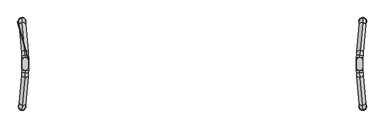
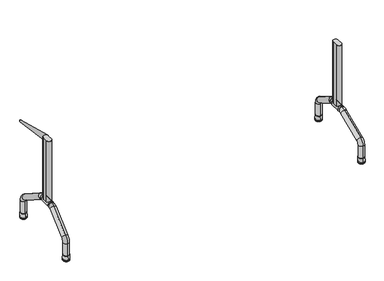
"""IFC4 building model written with IfcOpenShell, lengths in millimetres: furniture geometry, Mesa para refeitório : Mesa para refeitório 220x77cm cód 70476.6."""

from ifc_helpers import new_model, si_unit, point, frame, frame_2d, origin, place, context, project, spatial, polyline, circle_curve, ellipse_curve, trimmed, segment, composite_curve, outline, extrude, source, transform, mapped, element, save
from ifc_brep_helpers import plane_surface, cylinder_surface, revolved_surface, extruded_surface, advanced_brep


def furniture_0e918ce6(model_context):
    return source(origin(), model_context, "Body", "SolidModel", [
        advanced_brep(
        [(-1019.4401581, 37.5, 255.0), (-1019.4401581, -37.5, 255.0), (-1019.4401581, -37.5, 295.0), (-1019.4401581, 37.5, 295.0), (-1020.0583573, -51.7441422, 295.0), (-1020.0583573, -51.7441422, 255.0), (-1020.0583573, 51.7441422, 295.0), (-1020.0583573, 51.7441422, 255.0)],
        [
            (0, 1),
            (1, 2, ellipse_curve(frame((-1019.4401581, -37.5, 275.0), z_axis=(0.0, 1.0, 0.0), x_axis=(0.0, 0.0, -1.0)), 20.0, 19.923894)),
            (2, 3),
            (3, 0, ellipse_curve(frame((-1019.4401581, 37.5, 275.0), z_axis=(0.0, -1.0, 0.0), x_axis=(0.0, 0.0, -1.0)), 20.0, 19.923894)),
            (2, 1, ellipse_curve(frame((-1019.4401581, -37.5, 275.0), z_axis=(0.0, 1.0, 0.0), x_axis=(0.0, 0.0, -1.0)), 20.0, 19.923894)),
            (0, 3, ellipse_curve(frame((-1019.4401581, 37.5, 275.0), z_axis=(0.0, -1.0, 0.0), x_axis=(0.0, 0.0, -1.0)), 20.0, 19.923894)),
            (4, 5, ellipse_curve(frame((-1020.0583573, -51.7441422, 275.0), z_axis=(-0.08663729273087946, -0.9962399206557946, 0.0), x_axis=(0.0, 0.0, -1.0)), 20.0, 19.923894)),
            (5, 4, ellipse_curve(frame((-1020.0583573, -51.7441422, 275.0), z_axis=(-0.08663729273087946, -0.9962399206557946, 0.0), x_axis=(0.0, 0.0, -1.0)), 20.0, 19.923894)),
            (4, 2, circle_curve(frame((-1183.8513695, -37.5, 295.0), z_axis=(0.0, 0.0, 1.0), x_axis=(1.0, 0.0, 0.0)), 164.4112114)),
            (1, 5, circle_curve(frame((-1183.8513695, -37.5, 255.0), z_axis=(0.0, 0.0, -1.0), x_axis=(1.0, 0.0, 0.0)), 164.4112114)),
            (6, 7, ellipse_curve(frame((-1020.0583573, 51.7441422, 275.0), z_axis=(-0.08663729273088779, 0.9962399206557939, 0.0), x_axis=(0.0, 0.0, -1.0)), 20.0, 19.923894)),
            (7, 6, ellipse_curve(frame((-1020.0583573, 51.7441422, 275.0), z_axis=(-0.08663729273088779, 0.9962399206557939, 0.0), x_axis=(0.0, 0.0, -1.0)), 20.0, 19.923894)),
            (3, 6, circle_curve(frame((-1183.8513695, 37.5, 295.0), z_axis=(0.0, 0.0, 1.0), x_axis=(0.996239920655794, 0.08663729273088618, 0.0)), 164.4112114)),
            (7, 0, circle_curve(frame((-1183.8513695, 37.5, 255.0), z_axis=(0.0, 0.0, -1.0), x_axis=(0.996239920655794, 0.08663729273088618, 0.0)), 164.4112114)),
        ],
        [
            extruded_surface(trimmed(ellipse_curve(frame((-1019.4401581, 37.5, 275.0), z_axis=(0.0, -1.0, 0.0), x_axis=(0.0, 0.0, -1.0)), 20.0, 19.923894), [point((-1019.4401581, 37.5, 295.0))], [point((-1019.4401581, 37.5, 255.0))], True, "CARTESIAN"), (0.0, -75.0, 0.0), 75.0),
            extruded_surface(trimmed(ellipse_curve(frame((-1019.4401581, 37.5, 275.0), z_axis=(0.0, -1.0, 0.0), x_axis=(0.0, 0.0, -1.0)), 20.0, 19.923894), [point((-1019.4401581, 37.5, 255.0))], [point((-1019.4401581, 37.5, 295.0))], True, "CARTESIAN"), (0.0, -75.0, 0.0), 75.0),
            plane_surface(frame((-1020.0583573, -51.7441422, 0.0), z_axis=(-0.08663729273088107, -0.9962399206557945, 0.0), x_axis=(0.0, 0.0, 1.0))),
            revolved_surface(trimmed(ellipse_curve(frame((-1019.4401581, -37.5, 275.0), z_axis=(0.0, -1.0, 0.0), x_axis=(0.0, 0.0, -1.0)), 20.0, 19.923894), [point((-1019.4401581, -37.5, 295.0))], [point((-1019.4401581, -37.5, 255.0))], True, "CARTESIAN"), (-1183.8513695, -37.5, 0.0), (0.0, 0.0, 1.0)),
            revolved_surface(trimmed(ellipse_curve(frame((-1019.4401581, -37.5, 275.0), z_axis=(0.0, -1.0, 0.0), x_axis=(0.0, 0.0, -1.0)), 20.0, 19.923894), [point((-1019.4401581, -37.5, 255.0))], [point((-1019.4401581, -37.5, 295.0))], True, "CARTESIAN"), (-1183.8513695, -37.5, 0.0), (0.0, 0.0, 1.0)),
            plane_surface(frame((-1020.0583573, 51.7441422, 0.0), z_axis=(-0.08663729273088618, 0.996239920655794, 0.0), x_axis=(0.0, 0.0, 1.0))),
            revolved_surface(trimmed(ellipse_curve(frame((-1020.0583573, 51.7441422, 275.0), z_axis=(0.08663729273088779, -0.9962399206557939, 0.0), x_axis=(0.0, 0.0, -1.0)), 20.0, 19.923894), [point((-1020.0583573, 51.7441422, 295.0))], [point((-1020.0583573, 51.7441422, 255.0))], True, "CARTESIAN"), (-1183.8513695, 37.5, 0.0), (0.0, 0.0, 1.0)),
            revolved_surface(trimmed(ellipse_curve(frame((-1020.0583573, 51.7441422, 275.0), z_axis=(0.08663729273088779, -0.9962399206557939, 0.0), x_axis=(0.0, 0.0, -1.0)), 20.0, 19.923894), [point((-1020.0583573, 51.7441422, 255.0))], [point((-1020.0583573, 51.7441422, 295.0))], True, "CARTESIAN"), (-1183.8513695, 37.5, 0.0), (0.0, 0.0, 1.0)),
        ],
        [
            (0, [[1, 2, 3, 4]]),
            (1, [[-3, 5, -1, 6]]),
            (2, [[7, 8]]),
            (3, [[-7, 9, -2, 10]]),
            (4, [[-8, -10, -5, -9]]),
            (5, [[11, 12]]),
            (6, [[-4, 13, -12, 14]]),
            (7, [[-6, -14, -11, -13]]),
        ],
    ),
        advanced_brep(
        [(-1039.9590188, 279.1314153, 43.1183008), (-1036.4727891, 239.2836274, 43.1183008), (-1039.9590188, 279.1314153, 130.5759348), (-1036.4727891, 239.2836274, 130.5759348), (-1037.4872272, 250.8787073, 181.5558347), (-1022.822711, 83.2625212, 285.9798998), (-1020.9843424, 62.2498719, 251.9932999), (-1035.6488585, 229.866058, 147.5692348), (-1020.0651581, 51.7435473, 295.0), (-1020.0651581, 51.7435473, 255.0)],
        [
            (0, 1, circle_curve(frame((-1038.215904, 259.2075213, 43.1183008), z_axis=(0.0, 0.0, -1.0), x_axis=(0.08715574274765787, -0.9961946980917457, 0.0)), 20.0)),
            (1, 0, circle_curve(frame((-1038.215904, 259.2075213, 43.1183008), z_axis=(0.0, 0.0, -1.0), x_axis=(0.08715574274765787, -0.9961946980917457, 0.0)), 20.0)),
            (0, 2),
            (2, 3, circle_curve(frame((-1038.215904, 259.2075213, 130.5759348), z_axis=(0.0, 0.0, -1.0), x_axis=(0.08715574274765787, -0.9961946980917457, 0.0)), 20.0)),
            (3, 1),
            (3, 2, circle_curve(frame((-1038.215904, 259.2075213, 130.5759348), z_axis=(0.0, 0.0, -1.0), x_axis=(0.08715574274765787, -0.9961946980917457, 0.0)), 20.0)),
            (4, 5),
            (5, 6, circle_curve(frame((-1021.9035267, 72.7561965, 268.9865999), z_axis=(-0.07405318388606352, 0.8464317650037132, -0.5273228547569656), x_axis=(0.04595921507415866, -0.5253162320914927, -0.8496649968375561)), 20.0)),
            (6, 7),
            (7, 4, circle_curve(frame((-1036.5680429, 240.3723827, 164.5625347), z_axis=(0.07405318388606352, -0.8464317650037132, 0.5273228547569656), x_axis=(0.04595921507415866, -0.5253162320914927, -0.8496649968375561)), 20.0)),
            (6, 5, circle_curve(frame((-1021.9035267, 72.7561965, 268.9865999), z_axis=(-0.07405318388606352, 0.8464317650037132, -0.5273228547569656), x_axis=(0.04595921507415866, -0.5253162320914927, -0.8496649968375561)), 20.0)),
            (4, 7, circle_curve(frame((-1036.5680429, 240.3723827, 164.5625347), z_axis=(0.07405318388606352, -0.8464317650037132, 0.5273228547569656), x_axis=(0.04595921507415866, -0.5253162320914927, -0.8496649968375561)), 20.0)),
            (7, 3, circle_curve(frame((-1034.7296742, 219.3597334, 130.5759348), z_axis=(-0.9961946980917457, -0.08715574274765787, 0.0), x_axis=(-0.08715574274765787, 0.9961946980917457, 0.0)), 20.0)),
            (2, 4, circle_curve(frame((-1034.7296742, 219.3597334, 130.5759348), z_axis=(0.9961946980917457, 0.08715574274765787, 0.0), x_axis=(-0.08715574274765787, 0.9961946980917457, 0.0)), 60.0)),
            (8, 9, circle_curve(frame((-1020.0651581, 51.7435473, 275.0), z_axis=(0.08715574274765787, -0.9961946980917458, 0.0), x_axis=(0.0, 0.0, -1.0)), 20.0)),
            (9, 8, circle_curve(frame((-1020.0651581, 51.7435473, 275.0), z_axis=(0.08715574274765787, -0.9961946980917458, 0.0), x_axis=(0.0, 0.0, -1.0)), 20.0)),
            (9, 6, circle_curve(frame((-1020.0651581, 51.7435473, 235.0), z_axis=(-0.9961946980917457, -0.08715574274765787, 0.0), x_axis=(-0.045959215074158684, 0.5253162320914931, 0.8496649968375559)), 20.0)),
            (5, 8, circle_curve(frame((-1020.0651581, 51.7435473, 235.0), z_axis=(0.9961946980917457, 0.08715574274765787, 0.0), x_axis=(-0.045959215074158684, 0.5253162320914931, 0.8496649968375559)), 60.0)),
        ],
        [
            plane_surface(frame((-350.8415623, 319.3449838, 43.1183008), z_axis=(0.0, 0.0, -1.0000000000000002), x_axis=(-0.9961946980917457, -0.08715574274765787, 0.0))),
            cylinder_surface(frame((-1038.215904, 259.2075213, 43.1183008), z_axis=(0.0, 0.0, -1.0000000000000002), x_axis=(0.08715574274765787, -0.9961946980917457, 0.0)), 20.0),
            cylinder_surface(frame((-1036.5680429, 240.3723827, 164.5625347), z_axis=(-0.07405318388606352, 0.8464317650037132, -0.5273228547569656), x_axis=(0.04595921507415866, -0.5253162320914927, -0.8496649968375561)), 20.0),
            revolved_surface(trimmed(ellipse_curve(frame((-1038.215904, 259.2075213, 130.5759348), z_axis=(0.0, 0.0, 1.0000000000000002), x_axis=(0.08715574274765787, -0.9961946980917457, 0.0)), 20.0, 20.0), [point((-1036.4727891, 239.2836274, 130.5759348))], [point((-1039.9590188, 279.1314153, 130.5759348))], True, "CARTESIAN"), (-347.3553326, 279.4971959, 130.5759348), (-0.9961946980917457, -0.08715574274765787, 0.0)),
            revolved_surface(trimmed(ellipse_curve(frame((-1038.215904, 259.2075213, 130.5759348), z_axis=(0.0, 0.0, 1.0000000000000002), x_axis=(0.08715574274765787, -0.9961946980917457, 0.0)), 20.0, 20.0), [point((-1039.9590188, 279.1314153, 130.5759348))], [point((-1036.4727891, 239.2836274, 130.5759348))], True, "CARTESIAN"), (-347.3553326, 279.4971959, 130.5759348), (-0.9961946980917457, -0.08715574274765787, 0.0)),
            plane_surface(frame((-332.6908165, 111.8810098, 275.0), z_axis=(0.08715574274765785, -0.9961946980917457, 0.0), x_axis=(-0.9961946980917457, -0.08715574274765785, 0.0))),
            revolved_surface(trimmed(ellipse_curve(frame((-1021.9035267, 72.7561965, 268.9865999), z_axis=(0.07405318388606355, -0.8464317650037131, 0.527322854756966), x_axis=(0.0459592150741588, -0.5253162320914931, -0.8496649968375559)), 20.0, 20.0), [point((-1020.9843424, 62.2498719, 251.9932999))], [point((-1022.822711, 83.2625212, 285.9798998))], True, "CARTESIAN"), (-332.6908165, 111.8810098, 235.0), (-0.9961946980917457, -0.08715574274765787, 0.0)),
            revolved_surface(trimmed(ellipse_curve(frame((-1021.9035267, 72.7561965, 268.9865999), z_axis=(0.07405318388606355, -0.8464317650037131, 0.527322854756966), x_axis=(0.0459592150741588, -0.5253162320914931, -0.8496649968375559)), 20.0, 20.0), [point((-1022.822711, 83.2625212, 285.9798998))], [point((-1020.9843424, 62.2498719, 251.9932999))], True, "CARTESIAN"), (-332.6908165, 111.8810098, 235.0), (-0.9961946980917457, -0.08715574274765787, 0.0)),
        ],
        [
            (0, [[1, 2]]),
            (1, [[3, 4, 5, -1]]),
            (1, [[-5, 6, -3, -2]]),
            (2, [[7, 8, 9, 10]]),
            (2, [[-9, 11, -7, 12]]),
            (3, [[-10, 13, -4, 14]]),
            (4, [[-12, -14, -6, -13]]),
            (5, [[15, 16]]),
            (6, [[-16, 17, -8, 18]]),
            (7, [[-15, -18, -11, -17]]),
        ],
    ),
        advanced_brep(
        [(-1036.4727891, -239.2836274, 43.1183008), (-1039.9590188, -279.1314153, 43.1183008), (-1039.9590188, -279.1314153, 130.5759348), (-1036.4727891, -239.2836274, 130.5759348), (-1037.4872272, -250.8787073, 181.5558347), (-1022.822711, -83.2625212, 285.9798998), (-1020.9843424, -62.2498719, 251.9932999), (-1035.6488585, -229.866058, 147.5692348), (-1020.0651581, -51.7435473, 255.0), (-1020.0651581, -51.7435473, 295.0)],
        [
            (0, 1, circle_curve(frame((-1038.215904, -259.2075213, 43.1183008), z_axis=(0.0, 0.0, -1.0), x_axis=(-0.08715574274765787, -0.9961946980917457, 0.0)), 20.0)),
            (1, 0, circle_curve(frame((-1038.215904, -259.2075213, 43.1183008), z_axis=(0.0, 0.0, -1.0), x_axis=(-0.08715574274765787, -0.9961946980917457, 0.0)), 20.0)),
            (1, 2),
            (2, 3, circle_curve(frame((-1038.215904, -259.2075213, 130.5759348), z_axis=(0.0, 0.0, -1.0), x_axis=(-0.08715574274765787, -0.9961946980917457, 0.0)), 20.0)),
            (3, 0),
            (3, 2, circle_curve(frame((-1038.215904, -259.2075213, 130.5759348), z_axis=(0.0, 0.0, -1.0), x_axis=(-0.08715574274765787, -0.9961946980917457, 0.0)), 20.0)),
            (4, 5),
            (5, 6, circle_curve(frame((-1021.9035267, -72.7561965, 268.9865999), z_axis=(-0.07405318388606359, -0.8464317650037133, -0.5273228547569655), x_axis=(-0.04595921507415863, -0.5253162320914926, 0.8496649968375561)), 20.0)),
            (6, 7),
            (7, 4, circle_curve(frame((-1036.5680429, -240.3723827, 164.5625347), z_axis=(0.07405318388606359, 0.8464317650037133, 0.5273228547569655), x_axis=(-0.04595921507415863, -0.5253162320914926, 0.8496649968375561)), 20.0)),
            (6, 5, circle_curve(frame((-1021.9035267, -72.7561965, 268.9865999), z_axis=(-0.07405318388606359, -0.8464317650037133, -0.5273228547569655), x_axis=(-0.04595921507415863, -0.5253162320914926, 0.8496649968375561)), 20.0)),
            (4, 7, circle_curve(frame((-1036.5680429, -240.3723827, 164.5625347), z_axis=(0.07405318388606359, 0.8464317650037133, 0.5273228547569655), x_axis=(-0.04595921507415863, -0.5253162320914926, 0.8496649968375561)), 20.0)),
            (7, 3, circle_curve(frame((-1034.7296742, -219.3597334, 130.5759348), z_axis=(0.9961946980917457, -0.08715574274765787, 0.0), x_axis=(-0.08715574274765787, -0.9961946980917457, 0.0)), 20.0)),
            (2, 4, circle_curve(frame((-1034.7296742, -219.3597334, 130.5759348), z_axis=(-0.9961946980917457, 0.08715574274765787, 0.0), x_axis=(-0.08715574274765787, -0.9961946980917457, 0.0)), 60.0)),
            (8, 9, circle_curve(frame((-1020.0651581, -51.7435473, 275.0), z_axis=(0.08715574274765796, 0.9961946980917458, 0.0), x_axis=(0.0, 0.0, 1.0)), 20.0)),
            (9, 8, circle_curve(frame((-1020.0651581, -51.7435473, 275.0), z_axis=(0.08715574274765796, 0.9961946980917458, 0.0), x_axis=(0.0, 0.0, 1.0)), 20.0)),
            (8, 6, circle_curve(frame((-1020.0651581, -51.7435473, 235.0), z_axis=(0.9961946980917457, -0.08715574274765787, 0.0), x_axis=(-0.045959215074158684, -0.5253162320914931, 0.8496649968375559)), 20.0)),
            (5, 9, circle_curve(frame((-1020.0651581, -51.7435473, 235.0), z_axis=(-0.9961946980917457, 0.08715574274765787, 0.0), x_axis=(-0.045959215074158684, -0.5253162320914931, 0.8496649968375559)), 60.0)),
        ],
        [
            plane_surface(frame((-350.8415623, -319.3449838, 43.1183008), z_axis=(0.0, 0.0, -1.0000000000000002), x_axis=(-0.9961946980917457, 0.08715574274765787, 0.0))),
            cylinder_surface(frame((-1038.215904, -259.2075213, 43.1183008), z_axis=(0.0, 0.0, -1.0000000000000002), x_axis=(-0.08715574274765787, -0.9961946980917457, 0.0)), 20.0),
            cylinder_surface(frame((-1036.5680429, -240.3723827, 164.5625347), z_axis=(-0.07405318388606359, -0.8464317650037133, -0.5273228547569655), x_axis=(-0.04595921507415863, -0.5253162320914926, 0.8496649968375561)), 20.0),
            revolved_surface(trimmed(ellipse_curve(frame((-1038.215904, -259.2075213, 130.5759348), z_axis=(0.0, 0.0, 1.0000000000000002), x_axis=(-0.08715574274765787, -0.9961946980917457, 0.0)), 20.0, 20.0), [point((-1036.4727891, -239.2836274, 130.5759348))], [point((-1039.9590188, -279.1314153, 130.5759348))], True, "CARTESIAN"), (-347.3553326, -279.4971959, 130.5759348), (0.9961946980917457, -0.08715574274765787, 0.0)),
            revolved_surface(trimmed(ellipse_curve(frame((-1038.215904, -259.2075213, 130.5759348), z_axis=(0.0, 0.0, 1.0000000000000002), x_axis=(-0.08715574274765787, -0.9961946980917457, 0.0)), 20.0, 20.0), [point((-1039.9590188, -279.1314153, 130.5759348))], [point((-1036.4727891, -239.2836274, 130.5759348))], True, "CARTESIAN"), (-347.3553326, -279.4971959, 130.5759348), (0.9961946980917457, -0.08715574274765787, 0.0)),
            plane_surface(frame((-332.6908165, -111.8810098, 275.0), z_axis=(0.0871557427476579, 0.9961946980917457, 0.0), x_axis=(-0.9961946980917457, 0.0871557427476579, 0.0))),
            revolved_surface(trimmed(ellipse_curve(frame((-1021.9035267, -72.7561965, 268.9865999), z_axis=(0.07405318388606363, 0.8464317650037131, 0.527322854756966), x_axis=(-0.045959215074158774, -0.5253162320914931, 0.8496649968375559)), 20.0, 20.0), [point((-1020.9843424, -62.2498719, 251.9932999))], [point((-1022.822711, -83.2625212, 285.9798998))], True, "CARTESIAN"), (-332.6908165, -111.8810098, 235.0), (0.9961946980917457, -0.08715574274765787, 0.0)),
            revolved_surface(trimmed(ellipse_curve(frame((-1021.9035267, -72.7561965, 268.9865999), z_axis=(0.07405318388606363, 0.8464317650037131, 0.527322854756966), x_axis=(-0.045959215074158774, -0.5253162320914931, 0.8496649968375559)), 20.0, 20.0), [point((-1022.822711, -83.2625212, 285.9798998))], [point((-1020.9843424, -62.2498719, 251.9932999))], True, "CARTESIAN"), (-332.6908165, -111.8810098, 235.0), (0.9961946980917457, -0.08715574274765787, 0.0)),
        ],
        [
            (0, [[1, 2]]),
            (1, [[3, 4, 5, -2]]),
            (1, [[-5, 6, -3, -1]]),
            (2, [[7, 8, 9, 10]]),
            (2, [[-9, 11, -7, 12]]),
            (3, [[-10, 13, -4, 14]]),
            (4, [[-12, -14, -6, -13]]),
            (5, [[15, 16]]),
            (6, [[-15, 17, -8, 18]]),
            (7, [[-16, -18, -11, -17]]),
        ],
    ),
        extrude(outline(composite_curve([segment(polyline([(-1037.5814475, -19.3376613), (-1037.5814475, 19.4032698)]), True, "CONTINUOUS"), segment(trimmed(circle_curve(frame_2d((-1019.5814475, 19.4032698)), 18.0), [point((-1037.5814475, 19.4032698))], [point((-1001.5814475, 19.4032698))], False, "CARTESIAN"), True, "CONTINUOUS"), segment(polyline([(-1001.5814475, 19.4032698), (-1001.5814475, -19.3376613)]), True, "CONTINUOUS"), segment(trimmed(circle_curve(frame_2d((-1019.5814475, -19.3376613)), 18.0), [point((-1001.5814475, -19.3376613))], [point((-1037.5814475, -19.3376613))], False, "CARTESIAN"), True, "CONTINUOUS")], self_intersect=False)), frame((0.0, 0.0, 275.0), z_axis=(0.0, 0.0, 1.0), x_axis=(1.0, 0.0, 0.0)), (0.0, 0.0, 1.0), 467.0),
        advanced_brep(
        [(1019.4401581, 37.5, 255.0), (1019.4401581, 37.5, 295.0), (1019.4401581, -37.5, 295.0), (1019.4401581, -37.5, 255.0), (1020.0583573, -51.7441422, 295.0), (1020.0583573, -51.7441422, 255.0), (1020.0583573, 51.7441422, 295.0), (1020.0583573, 51.7441422, 255.0)],
        [
            (0, 1, ellipse_curve(frame((1019.4401581, 37.5, 275.0), z_axis=(0.0, -1.0, 0.0), x_axis=(0.0, 0.0, -1.0)), 20.0, 19.923894)),
            (1, 2),
            (2, 3, ellipse_curve(frame((1019.4401581, -37.5, 275.0), z_axis=(0.0, 1.0, 0.0), x_axis=(0.0, 0.0, -1.0)), 20.0, 19.923894)),
            (3, 0),
            (1, 0, ellipse_curve(frame((1019.4401581, 37.5, 275.0), z_axis=(0.0, -1.0, 0.0), x_axis=(0.0, 0.0, -1.0)), 20.0, 19.923894)),
            (3, 2, ellipse_curve(frame((1019.4401581, -37.5, 275.0), z_axis=(0.0, 1.0, 0.0), x_axis=(0.0, 0.0, -1.0)), 20.0, 19.923894)),
            (4, 5, ellipse_curve(frame((1020.0583573, -51.7441422, 275.0), z_axis=(0.08663729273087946, -0.9962399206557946, 0.0), x_axis=(0.0, 0.0, -1.0)), 20.0, 19.923894)),
            (5, 4, ellipse_curve(frame((1020.0583573, -51.7441422, 275.0), z_axis=(0.08663729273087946, -0.9962399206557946, 0.0), x_axis=(0.0, 0.0, -1.0)), 20.0, 19.923894)),
            (5, 3, circle_curve(frame((1183.8513695, -37.5, 255.0), z_axis=(0.0, 0.0, -1.0), x_axis=(-1.0, 0.0, 0.0)), 164.4112114)),
            (2, 4, circle_curve(frame((1183.8513695, -37.5, 295.0), z_axis=(0.0, 0.0, 1.0), x_axis=(-1.0, 0.0, 0.0)), 164.4112114)),
            (6, 7, ellipse_curve(frame((1020.0583573, 51.7441422, 275.0), z_axis=(0.08663729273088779, 0.9962399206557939, 0.0), x_axis=(0.0, 0.0, -1.0)), 20.0, 19.923894)),
            (7, 6, ellipse_curve(frame((1020.0583573, 51.7441422, 275.0), z_axis=(0.08663729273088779, 0.9962399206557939, 0.0), x_axis=(0.0, 0.0, -1.0)), 20.0, 19.923894)),
            (0, 7, circle_curve(frame((1183.8513695, 37.5, 255.0), z_axis=(0.0, 0.0, -1.0), x_axis=(-0.996239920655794, 0.08663729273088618, 0.0)), 164.4112114)),
            (6, 1, circle_curve(frame((1183.8513695, 37.5, 295.0), z_axis=(0.0, 0.0, 1.0), x_axis=(-0.996239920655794, 0.08663729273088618, 0.0)), 164.4112114)),
        ],
        [
            extruded_surface(trimmed(ellipse_curve(frame((1019.4401581, -37.5, 275.0), z_axis=(0.0, 1.0, 0.0), x_axis=(0.0, 0.0, -1.0)), 20.0, 19.923894), [point((1019.4401581, -37.5, 295.0))], [point((1019.4401581, -37.5, 255.0))], True, "CARTESIAN"), (0.0, 75.0, 0.0), 75.0),
            extruded_surface(trimmed(ellipse_curve(frame((1019.4401581, -37.5, 275.0), z_axis=(0.0, 1.0, 0.0), x_axis=(0.0, 0.0, -1.0)), 20.0, 19.923894), [point((1019.4401581, -37.5, 255.0))], [point((1019.4401581, -37.5, 295.0))], True, "CARTESIAN"), (0.0, 75.0, 0.0), 75.0),
            plane_surface(frame((1020.0583573, -51.7441422, 0.0), z_axis=(0.08663729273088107, -0.9962399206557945, 0.0), x_axis=(0.0, 0.0, 1.0))),
            revolved_surface(trimmed(ellipse_curve(frame((1019.4401581, -37.5, 275.0), z_axis=(0.0, 1.0, 0.0), x_axis=(0.0, 0.0, -1.0)), 20.0, 19.923894), [point((1019.4401581, -37.5, 295.0))], [point((1019.4401581, -37.5, 255.0))], True, "CARTESIAN"), (1183.8513695, -37.5, 0.0), (0.0, 0.0, 1.0)),
            revolved_surface(trimmed(ellipse_curve(frame((1019.4401581, -37.5, 275.0), z_axis=(0.0, 1.0, 0.0), x_axis=(0.0, 0.0, -1.0)), 20.0, 19.923894), [point((1019.4401581, -37.5, 255.0))], [point((1019.4401581, -37.5, 295.0))], True, "CARTESIAN"), (1183.8513695, -37.5, 0.0), (0.0, 0.0, 1.0)),
            plane_surface(frame((1020.0583573, 51.7441422, 0.0), z_axis=(0.08663729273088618, 0.996239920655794, 0.0), x_axis=(0.0, 0.0, 1.0))),
            revolved_surface(trimmed(ellipse_curve(frame((1020.0583573, 51.7441422, 275.0), z_axis=(0.08663729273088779, 0.9962399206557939, 0.0), x_axis=(0.0, 0.0, -1.0)), 20.0, 19.923894), [point((1020.0583573, 51.7441422, 295.0))], [point((1020.0583573, 51.7441422, 255.0))], True, "CARTESIAN"), (1183.8513695, 37.5, 0.0), (0.0, 0.0, 1.0)),
            revolved_surface(trimmed(ellipse_curve(frame((1020.0583573, 51.7441422, 275.0), z_axis=(0.08663729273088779, 0.9962399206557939, 0.0), x_axis=(0.0, 0.0, -1.0)), 20.0, 19.923894), [point((1020.0583573, 51.7441422, 255.0))], [point((1020.0583573, 51.7441422, 295.0))], True, "CARTESIAN"), (1183.8513695, 37.5, 0.0), (0.0, 0.0, 1.0)),
        ],
        [
            (0, [[1, 2, 3, 4]]),
            (1, [[5, -4, 6, -2]]),
            (2, [[7, 8]]),
            (3, [[9, -3, 10, -8]]),
            (4, [[-10, -6, -9, -7]]),
            (5, [[11, 12]]),
            (6, [[13, -11, 14, -1]]),
            (7, [[-14, -12, -13, -5]]),
        ],
    ),
        advanced_brep(
        [(1039.9590188, 279.1314153, 43.1183008), (1036.4727891, 239.2836274, 43.1183008), (1036.4727891, 239.2836274, 130.5759348), (1039.9590188, 279.1314153, 130.5759348), (1037.4872272, 250.8787073, 181.5558347), (1035.6488585, 229.866058, 147.5692348), (1020.9843424, 62.2498719, 251.9932999), (1022.822711, 83.2625212, 285.9798998), (1020.0651581, 51.7435473, 295.0), (1020.0651581, 51.7435473, 255.0)],
        [
            (0, 1, circle_curve(frame((1038.215904, 259.2075213, 43.1183008), z_axis=(0.0, 0.0, -1.0), x_axis=(-0.08715574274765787, -0.9961946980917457, 0.0)), 20.0)),
            (1, 0, circle_curve(frame((1038.215904, 259.2075213, 43.1183008), z_axis=(0.0, 0.0, -1.0), x_axis=(-0.08715574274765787, -0.9961946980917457, 0.0)), 20.0)),
            (1, 2),
            (2, 3, circle_curve(frame((1038.215904, 259.2075213, 130.5759348), z_axis=(0.0, 0.0, -1.0), x_axis=(-0.08715574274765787, -0.9961946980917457, 0.0)), 20.0)),
            (3, 0),
            (3, 2, circle_curve(frame((1038.215904, 259.2075213, 130.5759348), z_axis=(0.0, 0.0, -1.0), x_axis=(-0.08715574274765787, -0.9961946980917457, 0.0)), 20.0)),
            (4, 5, circle_curve(frame((1036.5680429, 240.3723827, 164.5625347), z_axis=(-0.07405318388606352, -0.8464317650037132, 0.5273228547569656), x_axis=(-0.04595921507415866, -0.5253162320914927, -0.8496649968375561)), 20.0)),
            (5, 6),
            (6, 7, circle_curve(frame((1021.9035267, 72.7561965, 268.9865999), z_axis=(0.07405318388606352, 0.8464317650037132, -0.5273228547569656), x_axis=(-0.04595921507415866, -0.5253162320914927, -0.8496649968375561)), 20.0)),
            (7, 4),
            (5, 4, circle_curve(frame((1036.5680429, 240.3723827, 164.5625347), z_axis=(-0.07405318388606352, -0.8464317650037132, 0.5273228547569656), x_axis=(-0.04595921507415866, -0.5253162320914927, -0.8496649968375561)), 20.0)),
            (7, 6, circle_curve(frame((1021.9035267, 72.7561965, 268.9865999), z_axis=(0.07405318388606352, 0.8464317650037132, -0.5273228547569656), x_axis=(-0.04595921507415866, -0.5253162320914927, -0.8496649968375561)), 20.0)),
            (4, 3, circle_curve(frame((1034.7296742, 219.3597334, 130.5759348), z_axis=(-0.9961946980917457, 0.08715574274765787, 0.0), x_axis=(0.08715574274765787, 0.9961946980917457, 0.0)), 60.0)),
            (2, 5, circle_curve(frame((1034.7296742, 219.3597334, 130.5759348), z_axis=(0.9961946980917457, -0.08715574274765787, 0.0), x_axis=(0.08715574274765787, 0.9961946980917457, 0.0)), 20.0)),
            (8, 9, circle_curve(frame((1020.0651581, 51.7435473, 275.0), z_axis=(-0.08715574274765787, -0.9961946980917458, 0.0), x_axis=(0.0, 0.0, -1.0)), 20.0)),
            (9, 8, circle_curve(frame((1020.0651581, 51.7435473, 275.0), z_axis=(-0.08715574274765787, -0.9961946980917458, 0.0), x_axis=(0.0, 0.0, -1.0)), 20.0)),
            (8, 7, circle_curve(frame((1020.0651581, 51.7435473, 235.0), z_axis=(-0.9961946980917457, 0.08715574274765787, 0.0), x_axis=(0.045959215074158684, 0.5253162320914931, 0.8496649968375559)), 60.0)),
            (6, 9, circle_curve(frame((1020.0651581, 51.7435473, 235.0), z_axis=(0.9961946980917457, -0.08715574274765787, 0.0), x_axis=(0.045959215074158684, 0.5253162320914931, 0.8496649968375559)), 20.0)),
        ],
        [
            plane_surface(frame((350.8415623, 319.3449838, 43.1183008), z_axis=(0.0, 0.0, -1.0000000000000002), x_axis=(0.9961946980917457, -0.08715574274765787, 0.0))),
            cylinder_surface(frame((1038.215904, 259.2075213, 43.1183008), z_axis=(0.0, 0.0, -1.0000000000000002), x_axis=(-0.08715574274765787, -0.9961946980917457, 0.0)), 20.0),
            cylinder_surface(frame((1036.5680429, 240.3723827, 164.5625347), z_axis=(0.07405318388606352, 0.8464317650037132, -0.5273228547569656), x_axis=(-0.04595921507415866, -0.5253162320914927, -0.8496649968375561)), 20.0),
            revolved_surface(trimmed(ellipse_curve(frame((1038.215904, 259.2075213, 130.5759348), z_axis=(0.0, 0.0, -1.0000000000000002), x_axis=(-0.08715574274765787, -0.9961946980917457, 0.0)), 20.0, 20.0), [point((1036.4727891, 239.2836274, 130.5759348))], [point((1039.9590188, 279.1314153, 130.5759348))], True, "CARTESIAN"), (347.3553326, 279.4971959, 130.5759348), (0.9961946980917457, -0.08715574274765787, 0.0)),
            revolved_surface(trimmed(ellipse_curve(frame((1038.215904, 259.2075213, 130.5759348), z_axis=(0.0, 0.0, -1.0000000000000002), x_axis=(-0.08715574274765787, -0.9961946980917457, 0.0)), 20.0, 20.0), [point((1039.9590188, 279.1314153, 130.5759348))], [point((1036.4727891, 239.2836274, 130.5759348))], True, "CARTESIAN"), (347.3553326, 279.4971959, 130.5759348), (0.9961946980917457, -0.08715574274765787, 0.0)),
            plane_surface(frame((332.6908165, 111.8810098, 275.0), z_axis=(-0.08715574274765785, -0.9961946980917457, 0.0), x_axis=(0.9961946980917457, -0.08715574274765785, 0.0))),
            revolved_surface(trimmed(ellipse_curve(frame((1021.9035267, 72.7561965, 268.9865999), z_axis=(0.07405318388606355, 0.8464317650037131, -0.527322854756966), x_axis=(-0.0459592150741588, -0.5253162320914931, -0.8496649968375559)), 20.0, 20.0), [point((1020.9843424, 62.2498719, 251.9932999))], [point((1022.822711, 83.2625212, 285.9798998))], True, "CARTESIAN"), (332.6908165, 111.8810098, 235.0), (0.9961946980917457, -0.08715574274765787, 0.0)),
            revolved_surface(trimmed(ellipse_curve(frame((1021.9035267, 72.7561965, 268.9865999), z_axis=(0.07405318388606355, 0.8464317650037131, -0.527322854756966), x_axis=(-0.0459592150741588, -0.5253162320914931, -0.8496649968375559)), 20.0, 20.0), [point((1022.822711, 83.2625212, 285.9798998))], [point((1020.9843424, 62.2498719, 251.9932999))], True, "CARTESIAN"), (332.6908165, 111.8810098, 235.0), (0.9961946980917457, -0.08715574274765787, 0.0)),
        ],
        [
            (0, [[1, 2]]),
            (1, [[-2, 3, 4, 5]]),
            (1, [[-1, -5, 6, -3]]),
            (2, [[7, 8, 9, 10]]),
            (2, [[11, -10, 12, -8]]),
            (3, [[13, -4, 14, -7]]),
            (4, [[-14, -6, -13, -11]]),
            (5, [[15, 16]]),
            (6, [[17, -9, 18, -15]]),
            (7, [[-18, -12, -17, -16]]),
        ],
    ),
        advanced_brep(
        [(1036.4727891, -239.2836274, 43.1183008), (1039.9590188, -279.1314153, 43.1183008), (1036.4727891, -239.2836274, 130.5759348), (1039.9590188, -279.1314153, 130.5759348), (1037.4872272, -250.8787073, 181.5558347), (1035.6488585, -229.866058, 147.5692348), (1020.9843424, -62.2498719, 251.9932999), (1022.822711, -83.2625212, 285.9798998), (1020.0651581, -51.7435473, 255.0), (1020.0651581, -51.7435473, 295.0)],
        [
            (0, 1, circle_curve(frame((1038.215904, -259.2075213, 43.1183008), z_axis=(0.0, 0.0, -1.0), x_axis=(0.08715574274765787, -0.9961946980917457, 0.0)), 20.0)),
            (1, 0, circle_curve(frame((1038.215904, -259.2075213, 43.1183008), z_axis=(0.0, 0.0, -1.0), x_axis=(0.08715574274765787, -0.9961946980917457, 0.0)), 20.0)),
            (0, 2),
            (2, 3, circle_curve(frame((1038.215904, -259.2075213, 130.5759348), z_axis=(0.0, 0.0, -1.0), x_axis=(0.08715574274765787, -0.9961946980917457, 0.0)), 20.0)),
            (3, 1),
            (3, 2, circle_curve(frame((1038.215904, -259.2075213, 130.5759348), z_axis=(0.0, 0.0, -1.0), x_axis=(0.08715574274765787, -0.9961946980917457, 0.0)), 20.0)),
            (4, 5, circle_curve(frame((1036.5680429, -240.3723827, 164.5625347), z_axis=(-0.07405318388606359, 0.8464317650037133, 0.5273228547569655), x_axis=(0.04595921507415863, -0.5253162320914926, 0.8496649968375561)), 20.0)),
            (5, 6),
            (6, 7, circle_curve(frame((1021.9035267, -72.7561965, 268.9865999), z_axis=(0.07405318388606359, -0.8464317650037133, -0.5273228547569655), x_axis=(0.04595921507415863, -0.5253162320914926, 0.8496649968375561)), 20.0)),
            (7, 4),
            (5, 4, circle_curve(frame((1036.5680429, -240.3723827, 164.5625347), z_axis=(-0.07405318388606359, 0.8464317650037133, 0.5273228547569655), x_axis=(0.04595921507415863, -0.5253162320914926, 0.8496649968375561)), 20.0)),
            (7, 6, circle_curve(frame((1021.9035267, -72.7561965, 268.9865999), z_axis=(0.07405318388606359, -0.8464317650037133, -0.5273228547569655), x_axis=(0.04595921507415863, -0.5253162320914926, 0.8496649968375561)), 20.0)),
            (4, 3, circle_curve(frame((1034.7296742, -219.3597334, 130.5759348), z_axis=(0.9961946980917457, 0.08715574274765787, 0.0), x_axis=(0.08715574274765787, -0.9961946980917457, 0.0)), 60.0)),
            (2, 5, circle_curve(frame((1034.7296742, -219.3597334, 130.5759348), z_axis=(-0.9961946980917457, -0.08715574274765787, 0.0), x_axis=(0.08715574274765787, -0.9961946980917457, 0.0)), 20.0)),
            (8, 9, circle_curve(frame((1020.0651581, -51.7435473, 275.0), z_axis=(-0.08715574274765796, 0.9961946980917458, 0.0), x_axis=(0.0, 0.0, 1.0)), 20.0)),
            (9, 8, circle_curve(frame((1020.0651581, -51.7435473, 275.0), z_axis=(-0.08715574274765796, 0.9961946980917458, 0.0), x_axis=(0.0, 0.0, 1.0)), 20.0)),
            (9, 7, circle_curve(frame((1020.0651581, -51.7435473, 235.0), z_axis=(0.9961946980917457, 0.08715574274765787, 0.0), x_axis=(0.045959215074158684, -0.5253162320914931, 0.8496649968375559)), 60.0)),
            (6, 8, circle_curve(frame((1020.0651581, -51.7435473, 235.0), z_axis=(-0.9961946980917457, -0.08715574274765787, 0.0), x_axis=(0.045959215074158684, -0.5253162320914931, 0.8496649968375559)), 20.0)),
        ],
        [
            plane_surface(frame((350.8415623, -319.3449838, 43.1183008), z_axis=(0.0, 0.0, -1.0000000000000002), x_axis=(0.9961946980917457, 0.08715574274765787, 0.0))),
            cylinder_surface(frame((1038.215904, -259.2075213, 43.1183008), z_axis=(0.0, 0.0, -1.0000000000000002), x_axis=(0.08715574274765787, -0.9961946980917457, 0.0)), 20.0),
            cylinder_surface(frame((1036.5680429, -240.3723827, 164.5625347), z_axis=(0.07405318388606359, -0.8464317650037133, -0.5273228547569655), x_axis=(0.04595921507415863, -0.5253162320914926, 0.8496649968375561)), 20.0),
            revolved_surface(trimmed(ellipse_curve(frame((1038.215904, -259.2075213, 130.5759348), z_axis=(0.0, 0.0, -1.0000000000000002), x_axis=(0.08715574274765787, -0.9961946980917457, 0.0)), 20.0, 20.0), [point((1036.4727891, -239.2836274, 130.5759348))], [point((1039.9590188, -279.1314153, 130.5759348))], True, "CARTESIAN"), (347.3553326, -279.4971959, 130.5759348), (-0.9961946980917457, -0.08715574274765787, 0.0)),
            revolved_surface(trimmed(ellipse_curve(frame((1038.215904, -259.2075213, 130.5759348), z_axis=(0.0, 0.0, -1.0000000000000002), x_axis=(0.08715574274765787, -0.9961946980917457, 0.0)), 20.0, 20.0), [point((1039.9590188, -279.1314153, 130.5759348))], [point((1036.4727891, -239.2836274, 130.5759348))], True, "CARTESIAN"), (347.3553326, -279.4971959, 130.5759348), (-0.9961946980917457, -0.08715574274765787, 0.0)),
            plane_surface(frame((332.6908165, -111.8810098, 275.0), z_axis=(-0.0871557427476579, 0.9961946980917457, 0.0), x_axis=(0.9961946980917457, 0.0871557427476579, 0.0))),
            revolved_surface(trimmed(ellipse_curve(frame((1021.9035267, -72.7561965, 268.9865999), z_axis=(0.07405318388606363, -0.8464317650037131, -0.527322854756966), x_axis=(0.045959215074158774, -0.5253162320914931, 0.8496649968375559)), 20.0, 20.0), [point((1020.9843424, -62.2498719, 251.9932999))], [point((1022.822711, -83.2625212, 285.9798998))], True, "CARTESIAN"), (332.6908165, -111.8810098, 235.0), (-0.9961946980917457, -0.08715574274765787, 0.0)),
            revolved_surface(trimmed(ellipse_curve(frame((1021.9035267, -72.7561965, 268.9865999), z_axis=(0.07405318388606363, -0.8464317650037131, -0.527322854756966), x_axis=(0.045959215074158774, -0.5253162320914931, 0.8496649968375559)), 20.0, 20.0), [point((1022.822711, -83.2625212, 285.9798998))], [point((1020.9843424, -62.2498719, 251.9932999))], True, "CARTESIAN"), (332.6908165, -111.8810098, 235.0), (-0.9961946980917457, -0.08715574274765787, 0.0)),
        ],
        [
            (0, [[1, 2]]),
            (1, [[-1, 3, 4, 5]]),
            (1, [[-2, -5, 6, -3]]),
            (2, [[7, 8, 9, 10]]),
            (2, [[11, -10, 12, -8]]),
            (3, [[13, -4, 14, -7]]),
            (4, [[-14, -6, -13, -11]]),
            (5, [[15, 16]]),
            (6, [[17, -9, 18, -16]]),
            (7, [[-18, -12, -17, -15]]),
        ],
    ),
        extrude(outline(composite_curve([segment(trimmed(circle_curve(frame_2d((1019.5814475, -19.3376613)), 18.0), [point((1037.5814475, -19.3376613))], [point((1001.5814475, -19.3376613))], False, "CARTESIAN"), True, "CONTINUOUS"), segment(polyline([(1001.5814475, -19.3376613), (1001.5814475, 19.4032698)]), True, "CONTINUOUS"), segment(trimmed(circle_curve(frame_2d((1019.5814475, 19.4032698)), 18.0), [point((1001.5814475, 19.4032698))], [point((1037.5814475, 19.4032698))], False, "CARTESIAN"), True, "CONTINUOUS"), segment(polyline([(1037.5814475, 19.4032698), (1037.5814475, -19.3376613)]), True, "CONTINUOUS")], self_intersect=False)), frame((0.0, 0.0, 275.0), z_axis=(0.0, 0.0, 1.0), x_axis=(1.0, 0.0, 0.0)), (0.0, 0.0, 1.0), 467.0),
        advanced_brep(
        [(-1038.215904, 280.5839249, 42.9792915), (-1038.215904, 281.212521, 42.3931162), (-1038.215904, 238.787479, 42.3931162), (-1038.215904, 239.4160751, 42.9792915), (-1038.215904, 283.125, 15.0433923), (-1038.215904, 236.875, 15.0433923), (-1038.215904, 283.125, 7.2213749), (-1038.215904, 236.875, 7.2213749), (-1038.215904, 276.0093092, 0.1056841), (-1038.215904, 243.9906908, 0.1056841), (-1038.215904, 260.0, 0.1056841), (-1038.215904, 260.0, 42.9792915)],
        [
            (0, 1, circle_curve(frame((-1038.215904, 280.5839249, 42.3491605), z_axis=(-1.0, 0.0, 0.0), x_axis=(0.0, -1.0, 0.0)), 0.630131)),
            (1, 2, circle_curve(frame((-1038.215904, 260.0, 42.3931162), z_axis=(0.0, 0.0, 1.0), x_axis=(0.0, -1.0, 0.0)), 21.212521)),
            (2, 3, circle_curve(frame((-1038.215904, 239.4160751, 42.3491605), z_axis=(-1.0, 0.0, 0.0), x_axis=(0.0, 1.0, 0.0)), 0.630131)),
            (3, 0, circle_curve(frame((-1038.215904, 260.0, 42.9792915), z_axis=(0.0, 0.0, -1.0), x_axis=(0.0, -1.0, 0.0)), 20.5839249)),
            (2, 1, circle_curve(frame((-1038.215904, 260.0, 42.3931162), z_axis=(0.0, 0.0, 1.0), x_axis=(0.0, -1.0, 0.0)), 21.212521)),
            (0, 3, circle_curve(frame((-1038.215904, 260.0, 42.9792915), z_axis=(0.0, 0.0, -1.0), x_axis=(0.0, -1.0, 0.0)), 20.5839249)),
            (1, 4),
            (4, 5, circle_curve(frame((-1038.215904, 260.0, 15.0433923), z_axis=(0.0, 0.0, 1.0), x_axis=(0.0, -1.0, 0.0)), 23.125)),
            (5, 2),
            (5, 4, circle_curve(frame((-1038.215904, 260.0, 15.0433923), z_axis=(0.0, 0.0, 1.0), x_axis=(0.0, -1.0, 0.0)), 23.125)),
            (4, 6),
            (6, 7, circle_curve(frame((-1038.215904, 260.0, 7.2213749), z_axis=(0.0, 0.0, 1.0), x_axis=(0.0, -1.0, 0.0)), 23.125)),
            (7, 5),
            (7, 6, circle_curve(frame((-1038.215904, 260.0, 7.2213749), z_axis=(0.0, 0.0, 1.0), x_axis=(0.0, -1.0, 0.0)), 23.125)),
            (6, 8, circle_curve(frame((-1038.215904, 276.0093092, 7.2213749), z_axis=(-1.0, 0.0, 0.0), x_axis=(0.0, -1.0, 0.0)), 7.1156908)),
            (8, 9, circle_curve(frame((-1038.215904, 260.0, 0.1056841), z_axis=(0.0, 0.0, 1.0), x_axis=(0.0, -1.0, 0.0)), 16.0093092)),
            (9, 7, circle_curve(frame((-1038.215904, 243.9906908, 7.2213749), z_axis=(-1.0, 0.0, 0.0), x_axis=(0.0, 1.0, 0.0)), 7.1156908)),
            (9, 8, circle_curve(frame((-1038.215904, 260.0, 0.1056841), z_axis=(0.0, 0.0, 1.0), x_axis=(0.0, -1.0, 0.0)), 16.0093092)),
            (8, 10),
            (10, 9),
            (11, 0),
            (3, 11),
        ],
        [
            revolved_surface(trimmed(ellipse_curve(frame((-1038.215904, 239.4160751, 42.3491605), z_axis=(-1.0, 0.0, 0.0), x_axis=(0.0, 1.0, 0.0)), 0.630131, 0.630131), [point((-1038.215904, 238.787479, 42.3931162))], [point((-1038.215904, 239.4160751, 42.9792915))], True, "CARTESIAN"), (-1038.215904, 260.0, 0.1056841), (0.0, 0.0, 1.0)),
            revolved_surface(polyline([(-1038.215904, 236.875, 15.0433923), (-1038.215904, 238.787479, 42.3931162)]), (-1038.215904, 260.0, 0.1056841), (0.0, 0.0, 1.0)),
            cylinder_surface(frame((-1038.215904, 260.0, 0.1056841), z_axis=(0.0, 0.0, 1.0), x_axis=(0.0, -1.0, 0.0)), 23.125),
            revolved_surface(trimmed(ellipse_curve(frame((-1038.215904, 243.9906908, 7.2213749), z_axis=(-1.0, 0.0, 0.0), x_axis=(0.0, 1.0, 0.0)), 7.1156908, 7.1156908), [point((-1038.215904, 243.9906908, 0.1056841))], [point((-1038.215904, 236.875, 7.2213749))], True, "CARTESIAN"), (-1038.215904, 260.0, 0.1056841), (0.0, 0.0, 1.0)),
            plane_surface(frame((-1038.215904, 260.0, 0.1056841), z_axis=(0.0, 0.0, -1.0), x_axis=(0.0, -1.0, 0.0))),
            plane_surface(frame((-1038.215904, 260.0, 42.9792915), z_axis=(0.0, 0.0, 1.0), x_axis=(0.0, -1.0, 0.0))),
        ],
        [
            (0, [[1, 2, 3, 4]]),
            (0, [[-3, 5, -1, 6]]),
            (1, [[7, 8, 9, -2]]),
            (1, [[-9, 10, -7, -5]]),
            (2, [[11, 12, 13, -8]]),
            (2, [[-13, 14, -11, -10]]),
            (3, [[15, 16, 17, -12]]),
            (3, [[-17, 18, -15, -14]]),
            (4, [[19, 20, -16]]),
            (4, [[-20, -19, -18]]),
            (5, [[21, -4, 22]]),
            (5, [[-22, -6, -21]]),
        ],
    ),
        advanced_brep(
        [(-1038.215904, -239.4160751, 42.9792915), (-1038.215904, -238.787479, 42.3931162), (-1038.215904, -281.212521, 42.3931162), (-1038.215904, -280.5839249, 42.9792915), (-1038.215904, -236.875, 15.0433923), (-1038.215904, -283.125, 15.0433923), (-1038.215904, -236.875, 7.2213749), (-1038.215904, -283.125, 7.2213749), (-1038.215904, -243.9906908, 0.1056841), (-1038.215904, -276.0093092, 0.1056841), (-1038.215904, -260.0, 0.1056841), (-1038.215904, -260.0, 42.9792915)],
        [
            (0, 1, circle_curve(frame((-1038.215904, -239.4160751, 42.3491605), z_axis=(-1.0, 0.0, 0.0), x_axis=(0.0, -1.0, 0.0)), 0.630131)),
            (1, 2, circle_curve(frame((-1038.215904, -260.0, 42.3931162), z_axis=(0.0, 0.0, 1.0), x_axis=(0.0, -1.0, 0.0)), 21.212521)),
            (2, 3, circle_curve(frame((-1038.215904, -280.5839249, 42.3491605), z_axis=(-1.0, 0.0, 0.0), x_axis=(0.0, 1.0, 0.0)), 0.630131)),
            (3, 0, circle_curve(frame((-1038.215904, -260.0, 42.9792915), z_axis=(0.0, 0.0, -1.0), x_axis=(0.0, -1.0, 0.0)), 20.5839249)),
            (2, 1, circle_curve(frame((-1038.215904, -260.0, 42.3931162), z_axis=(0.0, 0.0, 1.0), x_axis=(0.0, -1.0, 0.0)), 21.212521)),
            (0, 3, circle_curve(frame((-1038.215904, -260.0, 42.9792915), z_axis=(0.0, 0.0, -1.0), x_axis=(0.0, -1.0, 0.0)), 20.5839249)),
            (1, 4),
            (4, 5, circle_curve(frame((-1038.215904, -260.0, 15.0433923), z_axis=(0.0, 0.0, 1.0), x_axis=(0.0, -1.0, 0.0)), 23.125)),
            (5, 2),
            (5, 4, circle_curve(frame((-1038.215904, -260.0, 15.0433923), z_axis=(0.0, 0.0, 1.0), x_axis=(0.0, -1.0, 0.0)), 23.125)),
            (4, 6),
            (6, 7, circle_curve(frame((-1038.215904, -260.0, 7.2213749), z_axis=(0.0, 0.0, 1.0), x_axis=(0.0, -1.0, 0.0)), 23.125)),
            (7, 5),
            (7, 6, circle_curve(frame((-1038.215904, -260.0, 7.2213749), z_axis=(0.0, 0.0, 1.0), x_axis=(0.0, -1.0, 0.0)), 23.125)),
            (6, 8, circle_curve(frame((-1038.215904, -243.9906908, 7.2213749), z_axis=(-1.0, 0.0, 0.0), x_axis=(0.0, -1.0, 0.0)), 7.1156908)),
            (8, 9, circle_curve(frame((-1038.215904, -260.0, 0.1056841), z_axis=(0.0, 0.0, 1.0), x_axis=(0.0, -1.0, 0.0)), 16.0093092)),
            (9, 7, circle_curve(frame((-1038.215904, -276.0093092, 7.2213749), z_axis=(-1.0, 0.0, 0.0), x_axis=(0.0, 1.0, 0.0)), 7.1156908)),
            (9, 8, circle_curve(frame((-1038.215904, -260.0, 0.1056841), z_axis=(0.0, 0.0, 1.0), x_axis=(0.0, -1.0, 0.0)), 16.0093092)),
            (8, 10),
            (10, 9),
            (11, 0),
            (3, 11),
        ],
        [
            revolved_surface(trimmed(ellipse_curve(frame((-1038.215904, -280.5839249, 42.3491605), z_axis=(-1.0, 0.0, 0.0), x_axis=(0.0, 1.0, 0.0)), 0.630131, 0.630131), [point((-1038.215904, -281.212521, 42.3931162))], [point((-1038.215904, -280.5839249, 42.9792915))], True, "CARTESIAN"), (-1038.215904, -260.0, 0.1056841), (0.0, 0.0, 1.0)),
            revolved_surface(polyline([(-1038.215904, -283.125, 15.0433923), (-1038.215904, -281.212521, 42.3931162)]), (-1038.215904, -260.0, 0.1056841), (0.0, 0.0, 1.0)),
            cylinder_surface(frame((-1038.215904, -260.0, 0.1056841), z_axis=(0.0, 0.0, 1.0), x_axis=(0.0, -1.0, 0.0)), 23.125),
            revolved_surface(trimmed(ellipse_curve(frame((-1038.215904, -276.0093092, 7.2213749), z_axis=(-1.0, 0.0, 0.0), x_axis=(0.0, 1.0, 0.0)), 7.1156908, 7.1156908), [point((-1038.215904, -276.0093092, 0.1056841))], [point((-1038.215904, -283.125, 7.2213749))], True, "CARTESIAN"), (-1038.215904, -260.0, 0.1056841), (0.0, 0.0, 1.0)),
            plane_surface(frame((-1038.215904, -260.0, 0.1056841), z_axis=(0.0, 0.0, -1.0), x_axis=(0.0, -1.0, 0.0))),
            plane_surface(frame((-1038.215904, -260.0, 42.9792915), z_axis=(0.0, 0.0, 1.0), x_axis=(0.0, -1.0, 0.0))),
        ],
        [
            (0, [[1, 2, 3, 4]]),
            (0, [[-3, 5, -1, 6]]),
            (1, [[7, 8, 9, -2]]),
            (1, [[-9, 10, -7, -5]]),
            (2, [[11, 12, 13, -8]]),
            (2, [[-13, 14, -11, -10]]),
            (3, [[15, 16, 17, -12]]),
            (3, [[-17, 18, -15, -14]]),
            (4, [[19, 20, -16]]),
            (4, [[-20, -19, -18]]),
            (5, [[21, -4, 22]]),
            (5, [[-22, -6, -21]]),
        ],
    ),
        advanced_brep(
        [(1038.215904, 280.5839249, 42.9792915), (1038.215904, 239.4160751, 42.9792915), (1038.215904, 238.787479, 42.3931162), (1038.215904, 281.212521, 42.3931162), (1038.215904, 236.875, 15.0433923), (1038.215904, 283.125, 15.0433923), (1038.215904, 236.875, 7.2213749), (1038.215904, 283.125, 7.2213749), (1038.215904, 243.9906908, 0.1056841), (1038.215904, 276.0093092, 0.1056841), (1038.215904, 260.0, 0.1056841), (1038.215904, 260.0, 42.9792915)],
        [
            (0, 1, circle_curve(frame((1038.215904, 260.0, 42.9792915), z_axis=(0.0, 0.0, -1.0), x_axis=(0.0, -1.0, 0.0)), 20.5839249)),
            (1, 2, circle_curve(frame((1038.215904, 239.4160751, 42.3491605), z_axis=(1.0, 0.0, 0.0), x_axis=(0.0, 1.0, 0.0)), 0.630131)),
            (2, 3, circle_curve(frame((1038.215904, 260.0, 42.3931162), z_axis=(0.0, 0.0, 1.0), x_axis=(0.0, -1.0, 0.0)), 21.212521)),
            (3, 0, circle_curve(frame((1038.215904, 280.5839249, 42.3491605), z_axis=(1.0, 0.0, 0.0), x_axis=(0.0, -1.0, 0.0)), 0.630131)),
            (1, 0, circle_curve(frame((1038.215904, 260.0, 42.9792915), z_axis=(0.0, 0.0, -1.0), x_axis=(0.0, -1.0, 0.0)), 20.5839249)),
            (3, 2, circle_curve(frame((1038.215904, 260.0, 42.3931162), z_axis=(0.0, 0.0, 1.0), x_axis=(0.0, -1.0, 0.0)), 21.212521)),
            (2, 4),
            (4, 5, circle_curve(frame((1038.215904, 260.0, 15.0433923), z_axis=(0.0, 0.0, 1.0), x_axis=(0.0, -1.0, 0.0)), 23.125)),
            (5, 3),
            (5, 4, circle_curve(frame((1038.215904, 260.0, 15.0433923), z_axis=(0.0, 0.0, 1.0), x_axis=(0.0, -1.0, 0.0)), 23.125)),
            (4, 6),
            (6, 7, circle_curve(frame((1038.215904, 260.0, 7.2213749), z_axis=(0.0, 0.0, 1.0), x_axis=(0.0, -1.0, 0.0)), 23.125)),
            (7, 5),
            (7, 6, circle_curve(frame((1038.215904, 260.0, 7.2213749), z_axis=(0.0, 0.0, 1.0), x_axis=(0.0, -1.0, 0.0)), 23.125)),
            (6, 8, circle_curve(frame((1038.215904, 243.9906908, 7.2213749), z_axis=(1.0, 0.0, 0.0), x_axis=(0.0, 1.0, 0.0)), 7.1156908)),
            (8, 9, circle_curve(frame((1038.215904, 260.0, 0.1056841), z_axis=(0.0, 0.0, 1.0), x_axis=(0.0, -1.0, 0.0)), 16.0093092)),
            (9, 7, circle_curve(frame((1038.215904, 276.0093092, 7.2213749), z_axis=(1.0, 0.0, 0.0), x_axis=(0.0, -1.0, 0.0)), 7.1156908)),
            (9, 8, circle_curve(frame((1038.215904, 260.0, 0.1056841), z_axis=(0.0, 0.0, 1.0), x_axis=(0.0, -1.0, 0.0)), 16.0093092)),
            (8, 10),
            (10, 9),
            (11, 1),
            (0, 11),
        ],
        [
            revolved_surface(trimmed(ellipse_curve(frame((1038.215904, 239.4160751, 42.3491605), z_axis=(-1.0, 0.0, 0.0), x_axis=(0.0, 1.0, 0.0)), 0.630131, 0.630131), [point((1038.215904, 238.787479, 42.3931162))], [point((1038.215904, 239.4160751, 42.9792915))], True, "CARTESIAN"), (1038.215904, 260.0, 0.1056841), (0.0, 0.0, 1.0)),
            revolved_surface(polyline([(1038.215904, 236.875, 15.0433923), (1038.215904, 238.787479, 42.3931162)]), (1038.215904, 260.0, 0.1056841), (0.0, 0.0, 1.0)),
            cylinder_surface(frame((1038.215904, 260.0, 0.1056841), z_axis=(0.0, 0.0, 1.0), x_axis=(0.0, -1.0, 0.0)), 23.125),
            revolved_surface(trimmed(ellipse_curve(frame((1038.215904, 243.9906908, 7.2213749), z_axis=(-1.0, 0.0, 0.0), x_axis=(0.0, 1.0, 0.0)), 7.1156908, 7.1156908), [point((1038.215904, 243.9906908, 0.1056841))], [point((1038.215904, 236.875, 7.2213749))], True, "CARTESIAN"), (1038.215904, 260.0, 0.1056841), (0.0, 0.0, 1.0)),
            plane_surface(frame((1038.215904, 260.0, 0.1056841), z_axis=(0.0, 0.0, -1.0), x_axis=(0.0, -1.0, 0.0))),
            plane_surface(frame((1038.215904, 260.0, 42.9792915), z_axis=(0.0, 0.0, 1.0), x_axis=(0.0, -1.0, 0.0))),
        ],
        [
            (0, [[1, 2, 3, 4]]),
            (0, [[5, -4, 6, -2]]),
            (1, [[-3, 7, 8, 9]]),
            (1, [[-6, -9, 10, -7]]),
            (2, [[-8, 11, 12, 13]]),
            (2, [[-10, -13, 14, -11]]),
            (3, [[-12, 15, 16, 17]]),
            (3, [[-14, -17, 18, -15]]),
            (4, [[-16, 19, 20]]),
            (4, [[-18, -20, -19]]),
            (5, [[21, -1, 22]]),
            (5, [[-22, -5, -21]]),
        ],
    ),
        advanced_brep(
        [(1038.215904, -239.4160751, 42.9792915), (1038.215904, -280.5839249, 42.9792915), (1038.215904, -281.212521, 42.3931162), (1038.215904, -238.787479, 42.3931162), (1038.215904, -283.125, 15.0433923), (1038.215904, -236.875, 15.0433923), (1038.215904, -283.125, 7.2213749), (1038.215904, -236.875, 7.2213749), (1038.215904, -276.0093092, 0.1056841), (1038.215904, -243.9906908, 0.1056841), (1038.215904, -260.0, 0.1056841), (1038.215904, -260.0, 42.9792915)],
        [
            (0, 1, circle_curve(frame((1038.215904, -260.0, 42.9792915), z_axis=(0.0, 0.0, -1.0), x_axis=(0.0, -1.0, 0.0)), 20.5839249)),
            (1, 2, circle_curve(frame((1038.215904, -280.5839249, 42.3491605), z_axis=(1.0, 0.0, 0.0), x_axis=(0.0, 1.0, 0.0)), 0.630131)),
            (2, 3, circle_curve(frame((1038.215904, -260.0, 42.3931162), z_axis=(0.0, 0.0, 1.0), x_axis=(0.0, -1.0, 0.0)), 21.212521)),
            (3, 0, circle_curve(frame((1038.215904, -239.4160751, 42.3491605), z_axis=(1.0, 0.0, 0.0), x_axis=(0.0, -1.0, 0.0)), 0.630131)),
            (1, 0, circle_curve(frame((1038.215904, -260.0, 42.9792915), z_axis=(0.0, 0.0, -1.0), x_axis=(0.0, -1.0, 0.0)), 20.5839249)),
            (3, 2, circle_curve(frame((1038.215904, -260.0, 42.3931162), z_axis=(0.0, 0.0, 1.0), x_axis=(0.0, -1.0, 0.0)), 21.212521)),
            (2, 4),
            (4, 5, circle_curve(frame((1038.215904, -260.0, 15.0433923), z_axis=(0.0, 0.0, 1.0), x_axis=(0.0, -1.0, 0.0)), 23.125)),
            (5, 3),
            (5, 4, circle_curve(frame((1038.215904, -260.0, 15.0433923), z_axis=(0.0, 0.0, 1.0), x_axis=(0.0, -1.0, 0.0)), 23.125)),
            (4, 6),
            (6, 7, circle_curve(frame((1038.215904, -260.0, 7.2213749), z_axis=(0.0, 0.0, 1.0), x_axis=(0.0, -1.0, 0.0)), 23.125)),
            (7, 5),
            (7, 6, circle_curve(frame((1038.215904, -260.0, 7.2213749), z_axis=(0.0, 0.0, 1.0), x_axis=(0.0, -1.0, 0.0)), 23.125)),
            (6, 8, circle_curve(frame((1038.215904, -276.0093092, 7.2213749), z_axis=(1.0, 0.0, 0.0), x_axis=(0.0, 1.0, 0.0)), 7.1156908)),
            (8, 9, circle_curve(frame((1038.215904, -260.0, 0.1056841), z_axis=(0.0, 0.0, 1.0), x_axis=(0.0, -1.0, 0.0)), 16.0093092)),
            (9, 7, circle_curve(frame((1038.215904, -243.9906908, 7.2213749), z_axis=(1.0, 0.0, 0.0), x_axis=(0.0, -1.0, 0.0)), 7.1156908)),
            (9, 8, circle_curve(frame((1038.215904, -260.0, 0.1056841), z_axis=(0.0, 0.0, 1.0), x_axis=(0.0, -1.0, 0.0)), 16.0093092)),
            (8, 10),
            (10, 9),
            (11, 1),
            (0, 11),
        ],
        [
            revolved_surface(trimmed(ellipse_curve(frame((1038.215904, -280.5839249, 42.3491605), z_axis=(-1.0, 0.0, 0.0), x_axis=(0.0, 1.0, 0.0)), 0.630131, 0.630131), [point((1038.215904, -281.212521, 42.3931162))], [point((1038.215904, -280.5839249, 42.9792915))], True, "CARTESIAN"), (1038.215904, -260.0, 0.1056841), (0.0, 0.0, 1.0)),
            revolved_surface(polyline([(1038.215904, -283.125, 15.0433923), (1038.215904, -281.212521, 42.3931162)]), (1038.215904, -260.0, 0.1056841), (0.0, 0.0, 1.0)),
            cylinder_surface(frame((1038.215904, -260.0, 0.1056841), z_axis=(0.0, 0.0, 1.0), x_axis=(0.0, -1.0, 0.0)), 23.125),
            revolved_surface(trimmed(ellipse_curve(frame((1038.215904, -276.0093092, 7.2213749), z_axis=(-1.0, 0.0, 0.0), x_axis=(0.0, 1.0, 0.0)), 7.1156908, 7.1156908), [point((1038.215904, -276.0093092, 0.1056841))], [point((1038.215904, -283.125, 7.2213749))], True, "CARTESIAN"), (1038.215904, -260.0, 0.1056841), (0.0, 0.0, 1.0)),
            plane_surface(frame((1038.215904, -260.0, 0.1056841), z_axis=(0.0, 0.0, -1.0), x_axis=(0.0, -1.0, 0.0))),
            plane_surface(frame((1038.215904, -260.0, 42.9792915), z_axis=(0.0, 0.0, 1.0), x_axis=(0.0, -1.0, 0.0))),
        ],
        [
            (0, [[1, 2, 3, 4]]),
            (0, [[5, -4, 6, -2]]),
            (1, [[-3, 7, 8, 9]]),
            (1, [[-6, -9, 10, -7]]),
            (2, [[-8, 11, 12, 13]]),
            (2, [[-10, -13, 14, -11]]),
            (3, [[-12, 15, 16, 17]]),
            (3, [[-14, -17, 18, -15]]),
            (4, [[-16, 19, 20]]),
            (4, [[-18, -20, -19]]),
            (5, [[21, -1, 22]]),
            (5, [[-22, -5, -21]]),
        ],
    ),
        extrude(outline(composite_curve([segment(polyline([(0.0, 0.0), (-11.3499079, -59.0370689), (-236.7172151, -15.7100843)]), True, "CONTINUOUS"), segment(trimmed(circle_curve(frame_2d((-235.1976245, -7.8058636)), 8.0489664), [point((-236.7172151, -15.7100843))], [point((-237.1608757, 0.0))], False, "CARTESIAN"), True, "CONTINUOUS"), segment(polyline([(-237.1608757, 0.0), (0.0, 0.0)]), True, "CONTINUOUS")], self_intersect=False)), frame((-1001.5529394, 28.1487461, 681.8818171), z_axis=(0.9612616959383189, 0.27563735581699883, 0.0), x_axis=(0.2706805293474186, -0.943975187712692, -0.1887932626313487)), (0.0, 0.0, 1.0), 1.932216),
    ])


if __name__ == "__main__":
    model = new_model("IFC4")
    model_context = context("Model", 3, world=origin())
    ifc_project = project(units=[si_unit("LENGTHUNIT", "METRE", prefix="MILLI")], contexts=[model_context])
    site = spatial("IfcSite", under=ifc_project)
    building = spatial("IfcBuilding", under=site)
    placement = place(None, origin())
    furniture_shape = furniture_0e918ce6(model_context)
    element("IfcFurniture", 1, ObjectType="Mesa para refeitório : Mesa para refeitório 220x77cm cód 70476.6", at=placement, inside=building, context=model_context, shape_type="MappedRepresentation", body=[
        mapped(furniture_shape, transform((0.0, 0.0, 0.0), x_axis=(1.0, 0.0, 0.0), y_axis=(0.0, 1.0, 0.0), z_axis=(0.0, 0.0, 1.0))),
    ])
    save(model, "model.ifc")
